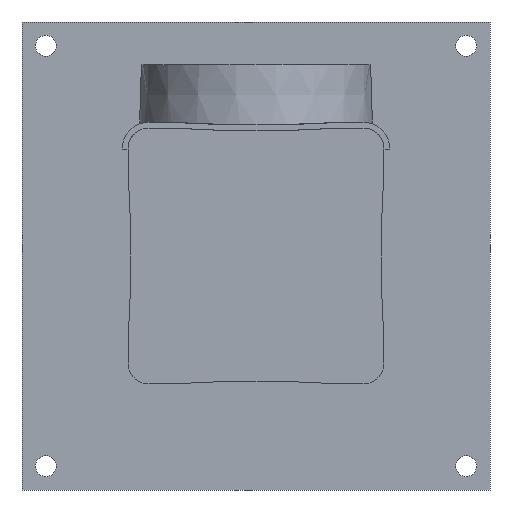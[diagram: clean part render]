
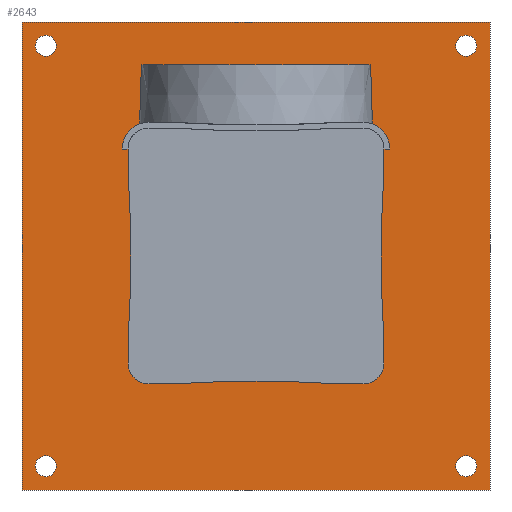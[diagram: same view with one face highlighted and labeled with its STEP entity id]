
A CAD part, front view. The second image highlights one B-rep face of the part: STEP entity #2643.
In plain terms, the highlighted planar face has unit normal (0, -1, 0) as drawn and (0, 0, -1) by its records, which use the part's own axes.
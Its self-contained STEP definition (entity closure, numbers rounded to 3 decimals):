
#2288=CARTESIAN_POINT('',(110.,-110.,0.));
#2289=DIRECTION('',(0.,0.,-1.));
#2290=DIRECTION('',(-1.,0.,0.));
#2291=AXIS2_PLACEMENT_3D('',#2288,#2289,#2290);
#2296=CARTESIAN_POINT('',(110.,-110.,0.));
#2297=DIRECTION('',(0.,0.,-1.));
#2298=DIRECTION('',(1.,0.,0.));
#2299=AXIS2_PLACEMENT_3D('',#2296,#2297,#2298);
#2304=CARTESIAN_POINT('',(110.,110.,0.));
#2305=DIRECTION('',(0.,0.,-1.));
#2306=DIRECTION('',(-1.,0.,0.));
#2307=AXIS2_PLACEMENT_3D('',#2304,#2305,#2306);
#2312=CARTESIAN_POINT('',(110.,110.,0.));
#2313=DIRECTION('',(0.,0.,-1.));
#2314=DIRECTION('',(1.,0.,0.));
#2315=AXIS2_PLACEMENT_3D('',#2312,#2313,#2314);
#2320=CARTESIAN_POINT('',(-110.,-110.,0.));
#2321=DIRECTION('',(0.,0.,-1.));
#2322=DIRECTION('',(-1.,0.,0.));
#2323=AXIS2_PLACEMENT_3D('',#2320,#2321,#2322);
#2328=CARTESIAN_POINT('',(-110.,-110.,0.));
#2329=DIRECTION('',(0.,0.,-1.));
#2330=DIRECTION('',(1.,0.,0.));
#2331=AXIS2_PLACEMENT_3D('',#2328,#2329,#2330);
#2336=CARTESIAN_POINT('',(-110.,110.,0.));
#2337=DIRECTION('',(0.,0.,-1.));
#2338=DIRECTION('',(-1.,0.,0.));
#2339=AXIS2_PLACEMENT_3D('',#2336,#2337,#2338);
#2344=CARTESIAN_POINT('',(-110.,110.,0.));
#2345=DIRECTION('',(0.,0.,-1.));
#2346=DIRECTION('',(1.,0.,0.));
#2347=AXIS2_PLACEMENT_3D('',#2344,#2345,#2346);
#2352=DIRECTION('',(0.,-1.,0.));
#2353=VECTOR('',#2352,245.);
#2354=CARTESIAN_POINT('',(122.5,122.5,0.));
#2355=LINE('',#2354,#2353);
#2366=DIRECTION('',(-1.,0.,0.));
#2367=VECTOR('',#2366,245.);
#2368=CARTESIAN_POINT('',(122.5,-122.5,0.));
#2369=LINE('',#2368,#2367);
#2380=DIRECTION('',(0.,1.,0.));
#2381=VECTOR('',#2380,245.);
#2382=CARTESIAN_POINT('',(-122.5,-122.5,0.));
#2383=LINE('',#2382,#2381);
#2394=DIRECTION('',(1.,0.,0.));
#2395=VECTOR('',#2394,245.);
#2396=CARTESIAN_POINT('',(-122.5,122.5,0.));
#2397=LINE('',#2396,#2395);
#2556=CARTESIAN_POINT('',(122.5,122.5,0.));
#2557=CARTESIAN_POINT('',(122.5,-122.5,0.));
#2558=VERTEX_POINT('',#2556);
#2559=VERTEX_POINT('',#2557);
#2560=CARTESIAN_POINT('',(-122.5,122.5,0.));
#2561=VERTEX_POINT('',#2560);
#2562=CARTESIAN_POINT('',(-122.5,-122.5,0.));
#2563=VERTEX_POINT('',#2562);
#2564=CARTESIAN_POINT('',(104.5,-110.,0.));
#2565=CARTESIAN_POINT('',(115.5,-110.,0.));
#2566=VERTEX_POINT('',#2564);
#2567=VERTEX_POINT('',#2565);
#2568=CARTESIAN_POINT('',(104.5,110.,0.));
#2569=CARTESIAN_POINT('',(115.5,110.,0.));
#2570=VERTEX_POINT('',#2568);
#2571=VERTEX_POINT('',#2569);
#2572=CARTESIAN_POINT('',(-115.5,-110.,0.));
#2573=CARTESIAN_POINT('',(-104.5,-110.,0.));
#2574=VERTEX_POINT('',#2572);
#2575=VERTEX_POINT('',#2573);
#2576=CARTESIAN_POINT('',(-115.5,110.,0.));
#2577=CARTESIAN_POINT('',(-104.5,110.,0.));
#2578=VERTEX_POINT('',#2576);
#2579=VERTEX_POINT('',#2577);
#2604=CARTESIAN_POINT('',(0.,0.,0.));
#2605=DIRECTION('',(0.,0.,1.));
#2606=DIRECTION('',(1.,0.,0.));
#2607=AXIS2_PLACEMENT_3D('',#2604,#2605,#2606);
#2608=PLANE('',#2607);
#2610=ORIENTED_EDGE('',*,*,#2609,.F.);
#2612=ORIENTED_EDGE('',*,*,#2611,.F.);
#2614=ORIENTED_EDGE('',*,*,#2613,.F.);
#2616=ORIENTED_EDGE('',*,*,#2615,.F.);
#2617=EDGE_LOOP('',(#2610,#2612,#2614,#2616));
#2618=FACE_OUTER_BOUND('',#2617,.F.);
#2620=ORIENTED_EDGE('',*,*,#2619,.T.);
#2622=ORIENTED_EDGE('',*,*,#2621,.T.);
#2623=EDGE_LOOP('',(#2620,#2622));
#2624=FACE_BOUND('',#2623,.F.);
#2626=ORIENTED_EDGE('',*,*,#2625,.T.);
#2628=ORIENTED_EDGE('',*,*,#2627,.T.);
#2629=EDGE_LOOP('',(#2626,#2628));
#2630=FACE_BOUND('',#2629,.F.);
#2632=ORIENTED_EDGE('',*,*,#2631,.T.);
#2634=ORIENTED_EDGE('',*,*,#2633,.T.);
#2635=EDGE_LOOP('',(#2632,#2634));
#2636=FACE_BOUND('',#2635,.F.);
#2638=ORIENTED_EDGE('',*,*,#2637,.T.);
#2640=ORIENTED_EDGE('',*,*,#2639,.T.);
#2641=EDGE_LOOP('',(#2638,#2640));
#2642=FACE_BOUND('',#2641,.F.);
#2292=CIRCLE('',#2291,5.5);
#2300=CIRCLE('',#2299,5.5);
#2308=CIRCLE('',#2307,5.5);
#2316=CIRCLE('',#2315,5.5);
#2324=CIRCLE('',#2323,5.5);
#2332=CIRCLE('',#2331,5.5);
#2340=CIRCLE('',#2339,5.5);
#2348=CIRCLE('',#2347,5.5);
#2609=EDGE_CURVE('',#2558,#2559,#2355,.T.);
#2611=EDGE_CURVE('',#2561,#2558,#2397,.T.);
#2613=EDGE_CURVE('',#2563,#2561,#2383,.T.);
#2615=EDGE_CURVE('',#2559,#2563,#2369,.T.);
#2619=EDGE_CURVE('',#2566,#2567,#2292,.T.);
#2621=EDGE_CURVE('',#2567,#2566,#2300,.T.);
#2625=EDGE_CURVE('',#2570,#2571,#2308,.T.);
#2627=EDGE_CURVE('',#2571,#2570,#2316,.T.);
#2631=EDGE_CURVE('',#2574,#2575,#2324,.T.);
#2633=EDGE_CURVE('',#2575,#2574,#2332,.T.);
#2637=EDGE_CURVE('',#2578,#2579,#2340,.T.);
#2639=EDGE_CURVE('',#2579,#2578,#2348,.T.);
#2643=ADVANCED_FACE('',(#2618,#2624,#2630,#2636,#2642),#2608,.F.);
